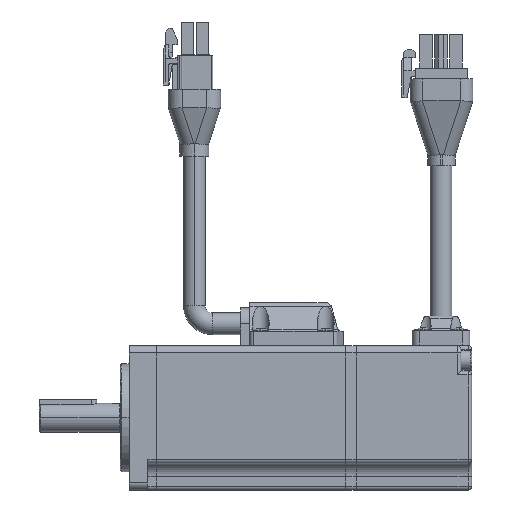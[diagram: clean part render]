
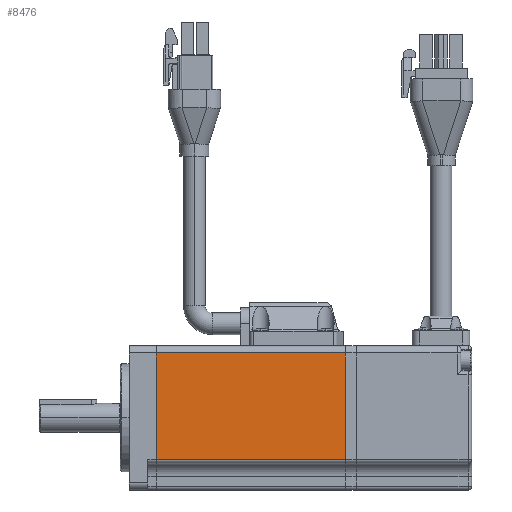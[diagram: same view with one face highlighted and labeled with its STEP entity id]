
A CAD part, left-side view. The second image highlights one B-rep face of the part: STEP entity #8476.
In plain terms, the highlighted planar face has unit normal (-1, 0, 0).
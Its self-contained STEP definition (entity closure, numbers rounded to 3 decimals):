
#7565 = EDGE_CURVE ( 'NONE', #24840, #24844, #25885, .T. ) ;
#7608 = EDGE_CURVE ( 'NONE', #24527, #25060, #25921, .T. ) ;
#7635 = EDGE_CURVE ( 'NONE', #24840, #24527, #25950, .T. ) ;
#7637 = EDGE_CURVE ( 'NONE', #25060, #24844, #25952, .T. ) ;
#8476 = ADVANCED_FACE ( 'NONE', ( #43269 ), #39636, .F. ) ;
#13451 = ORIENTED_EDGE ( 'NONE', *, *, #7565, .F. ) ;
#13452 = ORIENTED_EDGE ( 'NONE', *, *, #7635, .T. ) ;
#13453 = ORIENTED_EDGE ( 'NONE', *, *, #7608, .T. ) ;
#13454 = ORIENTED_EDGE ( 'NONE', *, *, #7637, .T. ) ;
#15300 = CARTESIAN_POINT ( 'NONE',  ( -20., 0., -11.5 ) ) ;
#15534 = CARTESIAN_POINT ( 'NONE',  ( -20., 52.5, -11.5 ) ) ;
#15536 = CARTESIAN_POINT ( 'NONE',  ( -20., 52.5, 18. ) ) ;
#15695 = CARTESIAN_POINT ( 'NONE',  ( -20., 0., 18. ) ) ;
#24527 = VERTEX_POINT ( 'NONE', #15300 ) ;
#24840 = VERTEX_POINT ( 'NONE', #15534 ) ;
#24844 = VERTEX_POINT ( 'NONE', #15536 ) ;
#25060 = VERTEX_POINT ( 'NONE', #15695 ) ;
#25885 = LINE ( 'NONE', #27499, #25887 ) ;
#25887 = VECTOR ( 'NONE', #27496, 1000. ) ;
#25921 = LINE ( 'NONE', #27412, #25923 ) ;
#25923 = VECTOR ( 'NONE', #27416, 1000. ) ;
#25950 = LINE ( 'NONE', #27363, #25953 ) ;
#25952 = LINE ( 'NONE', #27361, #25955 ) ;
#25953 = VECTOR ( 'NONE', #27362, 1000. ) ;
#25955 = VECTOR ( 'NONE', #27360, 1000. ) ;
#26599 = AXIS2_PLACEMENT_3D ( 'NONE', #39629, #39638, #39639 ) ;
#27360 = DIRECTION ( 'NONE',  ( 0., 1., 0. ) ) ;
#27361 = CARTESIAN_POINT ( 'NONE',  ( -20., 52.5, 18. ) ) ;
#27362 = DIRECTION ( 'NONE',  ( 0., -1., 0. ) ) ;
#27363 = CARTESIAN_POINT ( 'NONE',  ( -20., 52.5, -11.5 ) ) ;
#27412 = CARTESIAN_POINT ( 'NONE',  ( -20., 0., -12.5 ) ) ;
#27416 = DIRECTION ( 'NONE',  ( 0., 0., 1. ) ) ;
#27496 = DIRECTION ( 'NONE',  ( 0., 0., 1. ) ) ;
#27499 = CARTESIAN_POINT ( 'NONE',  ( -20., 52.5, -12.5 ) ) ;
#39629 = CARTESIAN_POINT ( 'NONE',  ( -20., 52.5, -12.5 ) ) ;
#39636 = PLANE ( 'NONE',  #26599 ) ;
#39638 = DIRECTION ( 'NONE',  ( 1., 0., 0. ) ) ;
#39639 = DIRECTION ( 'NONE',  ( 0., 0., -1. ) ) ;
#42139 = EDGE_LOOP ( 'NONE', ( #13451, #13452, #13453, #13454 ) ) ;
#43269 = FACE_OUTER_BOUND ( 'NONE', #42139, .T. ) ;
